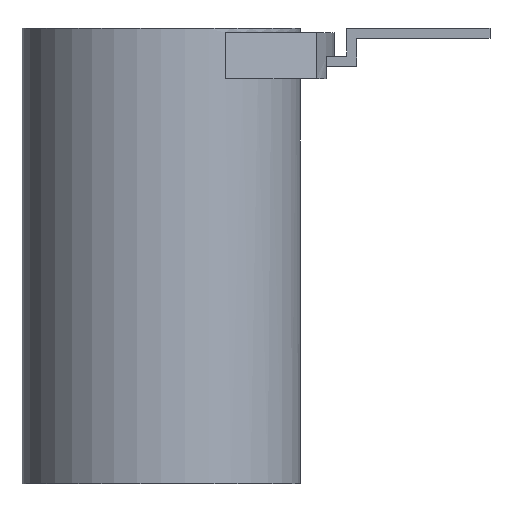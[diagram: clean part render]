
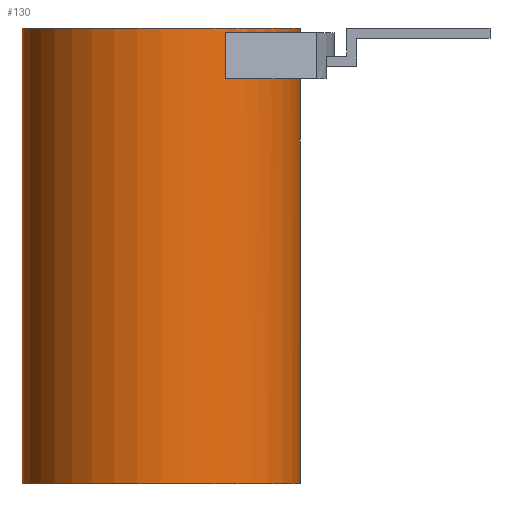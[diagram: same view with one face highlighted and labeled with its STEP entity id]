
A CAD part, front view. The second image highlights one B-rep face of the part: STEP entity #130.
In plain terms, the highlighted cylindrical face has radius 16.5 mm (diameter 33 mm), a partial arc.
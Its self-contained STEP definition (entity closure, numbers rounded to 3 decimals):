
#113=CYLINDRICAL_SURFACE('',#705,16.5);
#130=ADVANCED_FACE('',(#183),#113,.T.);
#183=FACE_OUTER_BOUND('',#210,.T.);
#210=EDGE_LOOP('',(#317,#318,#319,#320,#321,#322,#323,#324,#325,#326));
#240=CIRCLE('',#685,16.5);
#241=CIRCLE('',#688,16.5);
#246=CIRCLE('',#698,16.5);
#249=CIRCLE('',#703,16.5);
#250=CIRCLE('',#704,16.5);
#317=ORIENTED_EDGE('',*,*,#512,.F.);
#318=ORIENTED_EDGE('',*,*,#517,.F.);
#319=ORIENTED_EDGE('',*,*,#518,.T.);
#320=ORIENTED_EDGE('',*,*,#515,.T.);
#321=ORIENTED_EDGE('',*,*,#519,.F.);
#322=ORIENTED_EDGE('',*,*,#513,.F.);
#323=ORIENTED_EDGE('',*,*,#498,.F.);
#324=ORIENTED_EDGE('',*,*,#495,.F.);
#325=ORIENTED_EDGE('',*,*,#494,.F.);
#326=ORIENTED_EDGE('',*,*,#508,.F.);
#436=VERTEX_POINT('',#930);
#438=VERTEX_POINT('',#934);
#439=VERTEX_POINT('',#938);
#441=VERTEX_POINT('',#944);
#446=VERTEX_POINT('',#961);
#448=VERTEX_POINT('',#969);
#449=VERTEX_POINT('',#973);
#450=VERTEX_POINT('',#975);
#451=VERTEX_POINT('',#977);
#452=VERTEX_POINT('',#979);
#494=EDGE_CURVE('',#438,#436,#240,.T.);
#495=EDGE_CURVE('',#436,#439,#574,.T.);
#498=EDGE_CURVE('',#439,#441,#241,.T.);
#508=EDGE_CURVE('',#446,#438,#584,.T.);
#512=EDGE_CURVE('',#448,#446,#246,.T.);
#513=EDGE_CURVE('',#441,#449,#586,.T.);
#515=EDGE_CURVE('',#451,#450,#587,.T.);
#517=EDGE_CURVE('',#452,#448,#588,.T.);
#518=EDGE_CURVE('',#452,#451,#249,.T.);
#519=EDGE_CURVE('',#449,#450,#250,.T.);
#574=LINE('',#937,#629);
#584=LINE('',#963,#639);
#586=LINE('',#972,#641);
#587=LINE('',#976,#642);
#588=LINE('',#980,#643);
#629=VECTOR('',#759,1.);
#639=VECTOR('',#783,1.);
#641=VECTOR('',#797,1.);
#642=VECTOR('',#800,1.);
#643=VECTOR('',#803,1.);
#685=AXIS2_PLACEMENT_3D('',#935,#755,#756);
#688=AXIS2_PLACEMENT_3D('',#943,#764,#765);
#698=AXIS2_PLACEMENT_3D('',#970,#793,#794);
#703=AXIS2_PLACEMENT_3D('',#982,#806,#807);
#704=AXIS2_PLACEMENT_3D('',#983,#808,#809);
#705=AXIS2_PLACEMENT_3D('',#984,#810,#811);
#755=DIRECTION('',(0.,0.,1.));
#756=DIRECTION('',(-1.,0.,0.));
#759=DIRECTION('',(0.,0.,1.));
#764=DIRECTION('',(0.,0.,1.));
#765=DIRECTION('',(0.565,-0.825,0.));
#783=DIRECTION('',(0.,0.,-1.));
#793=DIRECTION('',(0.,0.,-1.));
#794=DIRECTION('',(-1.,0.,0.));
#797=DIRECTION('',(0.,0.,-1.));
#800=DIRECTION('',(0.,0.,-1.));
#803=DIRECTION('',(0.,0.,-1.));
#806=DIRECTION('',(0.,0.,-1.));
#807=DIRECTION('',(0.,1.,0.));
#808=DIRECTION('',(0.,0.,-1.));
#809=DIRECTION('',(0.,1.,0.));
#810=DIRECTION('',(0.,0.,-1.));
#811=DIRECTION('',(0.,-1.,0.));
#930=CARTESIAN_POINT('',(15.37,-6.,48.));
#934=CARTESIAN_POINT('',(7.633,-14.628,48.));
#935=CARTESIAN_POINT('',(0.,0.,48.));
#937=CARTESIAN_POINT('',(15.37,-6.,47.98));
#938=CARTESIAN_POINT('',(15.37,-6.,50.5));
#943=CARTESIAN_POINT('',(0.,0.,50.5));
#944=CARTESIAN_POINT('',(16.5,0.,50.5));
#961=CARTESIAN_POINT('',(7.633,-14.628,53.5));
#963=CARTESIAN_POINT('',(7.633,-14.628,54.02));
#969=CARTESIAN_POINT('',(16.5,0.,53.5));
#970=CARTESIAN_POINT('',(0.,0.,53.5));
#972=CARTESIAN_POINT('',(16.5,0.,0.));
#973=CARTESIAN_POINT('',(16.5,0.,0.));
#975=CARTESIAN_POINT('',(-16.5,0.,0.));
#976=CARTESIAN_POINT('',(-16.5,0.,0.));
#977=CARTESIAN_POINT('',(-16.5,0.,54.));
#979=CARTESIAN_POINT('',(16.5,0.,54.));
#980=CARTESIAN_POINT('',(16.5,0.,0.));
#982=CARTESIAN_POINT('',(0.,0.,54.));
#983=CARTESIAN_POINT('',(0.,0.,0.));
#984=CARTESIAN_POINT('',(0.,0.,54.));
